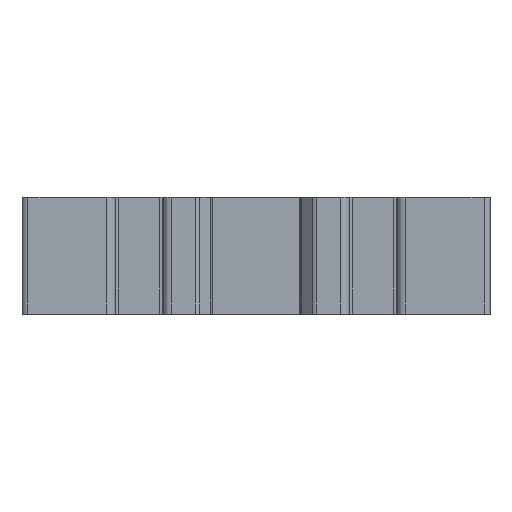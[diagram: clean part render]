
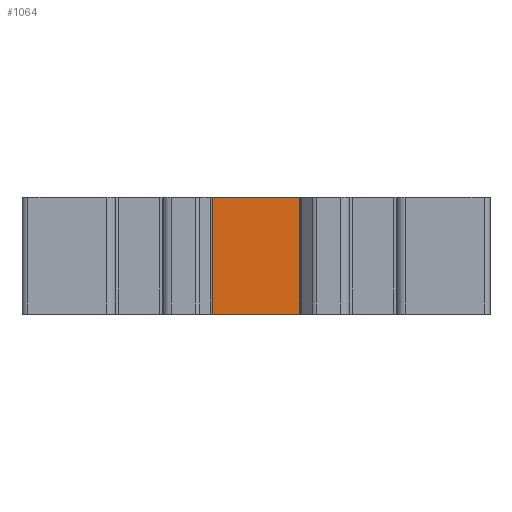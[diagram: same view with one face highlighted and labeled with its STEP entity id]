
A CAD part, top view. The second image highlights one B-rep face of the part: STEP entity #1064.
In plain terms, the highlighted planar face has unit normal (0, 0, 1).
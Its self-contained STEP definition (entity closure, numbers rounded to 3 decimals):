
#1064=ADVANCED_FACE('',(#2138),#2139,.F.);
#2138=FACE_OUTER_BOUND('',#3223,.T.);
#2139=PLANE('',#3224);
#3223=EDGE_LOOP('',(#6285,#6286,#6287,#6288));
#3224=AXIS2_PLACEMENT_3D('',#6289,#6290,#6291);
#6285=ORIENTED_EDGE('',*,*,#8127,.F.);
#6286=ORIENTED_EDGE('',*,*,#8125,.F.);
#6287=ORIENTED_EDGE('',*,*,#7334,.F.);
#6288=ORIENTED_EDGE('',*,*,#8128,.T.);
#6289=CARTESIAN_POINT('',(0.,10.0,-23.4));
#6290=DIRECTION('',(0.0,0.0,-1.0));
#6291=DIRECTION('',(1.0,0.0,0.0));
#7334=EDGE_CURVE('',#9041,#9043,#9044,.T.);
#8125=EDGE_CURVE('',#9043,#10201,#10203,.T.);
#8127=EDGE_CURVE('',#10201,#10205,#10206,.T.);
#8128=EDGE_CURVE('',#9041,#10205,#10207,.T.);
#9041=VERTEX_POINT('',#11373);
#9043=VERTEX_POINT('',#11375);
#9044=LINE('',#11376,#11377);
#10201=VERTEX_POINT('',#12922);
#10203=LINE('',#12924,#12925);
#10205=VERTEX_POINT('',#12927);
#10206=LINE('',#12928,#12929);
#10207=LINE('',#12930,#12931);
#11373=CARTESIAN_POINT('',(-14.295,10.0,-23.4));
#11375=CARTESIAN_POINT('',(14.295,10.0,-23.4));
#11376=CARTESIAN_POINT('',(0.,10.0,-23.4));
#11377=VECTOR('',#13825,1.0);
#12922=CARTESIAN_POINT('',(14.295,-10.0,-23.4));
#12924=CARTESIAN_POINT('',(14.295,10.0,-23.4));
#12925=VECTOR('',#14787,1.0);
#12927=CARTESIAN_POINT('',(-14.295,-10.0,-23.4));
#12928=CARTESIAN_POINT('',(0.,-10.0,-23.4));
#12929=VECTOR('',#14788,1.0);
#12930=CARTESIAN_POINT('',(-14.295,10.0,-23.4));
#12931=VECTOR('',#14789,1.0);
#13825=DIRECTION('',(1.0,0.0,0.0));
#14787=DIRECTION('',(0.0,-1.0,0.0));
#14788=DIRECTION('',(-1.0,-0.0,-0.0));
#14789=DIRECTION('',(0.0,-1.0,0.0));
